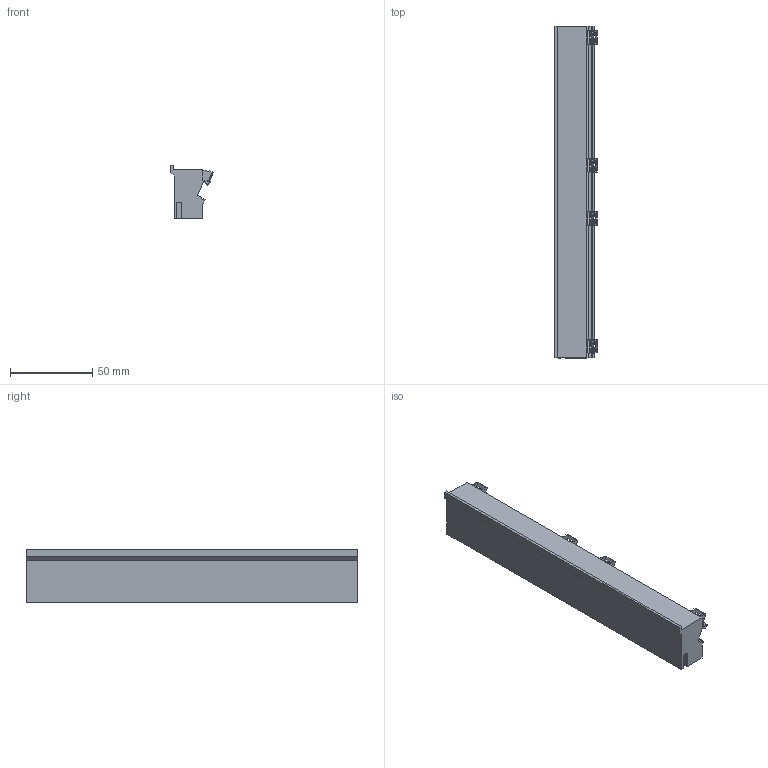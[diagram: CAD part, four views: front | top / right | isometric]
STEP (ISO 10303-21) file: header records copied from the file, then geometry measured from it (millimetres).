
FILE_DESCRIPTION(('Open CASCADE Model'),'2;1');
FILE_NAME('SOLID','2026-10-21T18:51:20',('Author'),('Open CASCADE'), 'Open CASCADE STEP processor 8.0','build123d','Unknown');
FILE_SCHEMA(('AUTOMOTIVE_DESIGN { 1 0 10303 214 1 1 1 1 }'));
Products named in the file (1): SOLID
Bounding box: 25.92 x 202 x 32.5 mm (x, y, z)
Volume: 105841.6 mm3; surface area: 26435.1 mm2
Topology: 1 solids, 1 shells, 616 faces, 1748 edges, 1122 vertices
Faces by surface type: plane 339, cylinder 276, bspline 1
Entity records: 47285 total; most frequent: CARTESIAN_POINT 13980, DIRECTION 5945, ORIENTED_EDGE 3496, PCURVE 3496, DEFINITIONAL_REPRESENTATION 3496, LINE 2706, VECTOR 2706, EDGE_CURVE 1748
